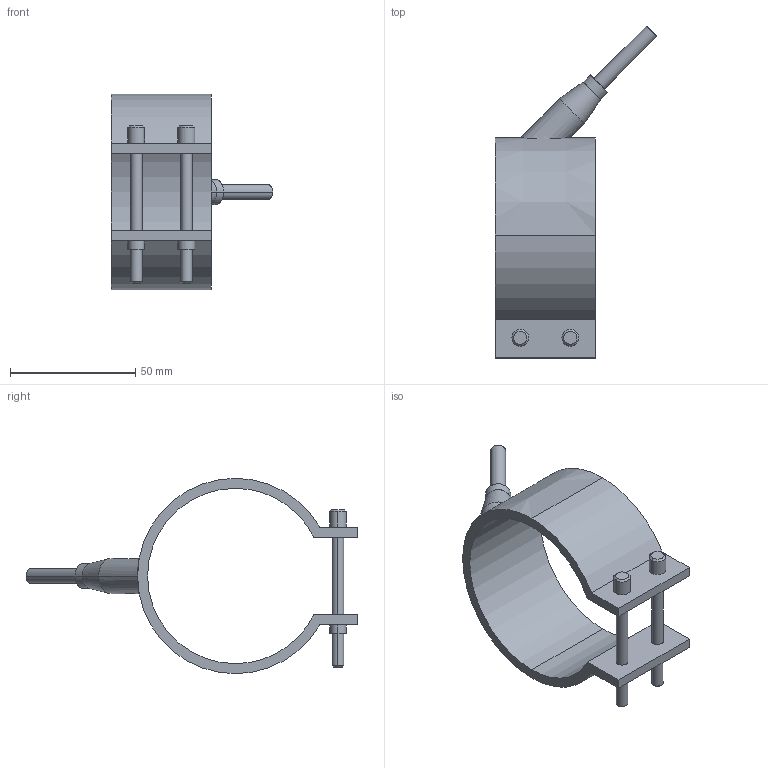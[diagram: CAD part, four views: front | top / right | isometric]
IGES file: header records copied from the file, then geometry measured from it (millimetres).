
Start section: START RECORD GO HERE.
Global section: file name: 29070040.igs; native system: DASSAULT SYSTEMES CATIA V5 R20 - www.3ds.com; preprocessor: CATIA Version 5 Release 20 ; author: Utente; organization: NB04-ASUS; date: 20210327.104257; units: millimetre
Bounding box: 64.55 x 132.55 x 78 mm (x, y, z)
Surface area: 23761 mm2 (no closed solid volume)
Topology: 0 solids, 0 shells, 54 faces, 252 edges, 252 vertices
Faces by surface type: revolution 38, plane 16
